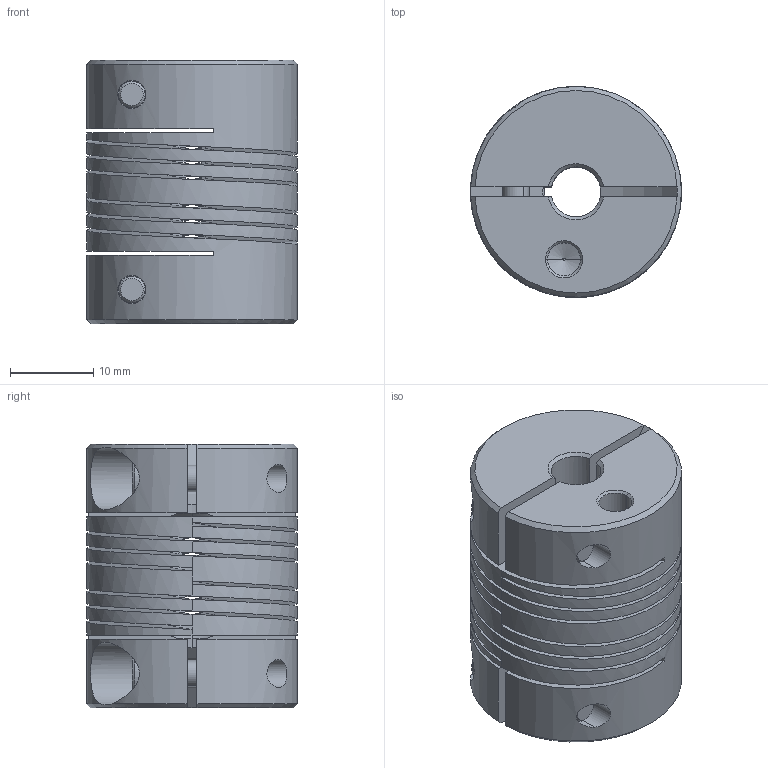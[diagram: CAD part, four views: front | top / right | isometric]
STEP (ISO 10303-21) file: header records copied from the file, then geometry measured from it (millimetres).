
FILE_DESCRIPTION((''),'2;1');
FILE_NAME('PCMR25-6-6-A','2016-09-08T',('SYSTEM'),(''),'PRO/ENGINEER BY PARAMETRIC TECHNOLOGY CORPORATION, 2015110','PRO/ENGINEER BY PARAMETRIC TECHNOLOGY CORPORATION, 2015110','');
FILE_SCHEMA(('AUTOMOTIVE_DESIGN { 1 0 10303 214 1 1 1 1 }'));
Length unit declared in the file: inch
Products named in the file (1): PCMR25-6-6-A
Bounding box: 25.4 x 25.4 x 31.75 mm (x, y, z)
Volume: 12605.3 mm3; surface area: 11999.3 mm2
Topology: 1 solids, 1 shells, 146 faces, 380 edges, 236 vertices
Faces by surface type: cylinder 57, plane 54, cone 27, bspline 8
Entity records: 7866 total; most frequent: CARTESIAN_POINT 3306, ORIENTED_EDGE 760, DIRECTION 670, EDGE_CURVE 380, AXIS2_PLACEMENT_3D 240, VERTEX_POINT 236, VECTOR 190, LINE 190
